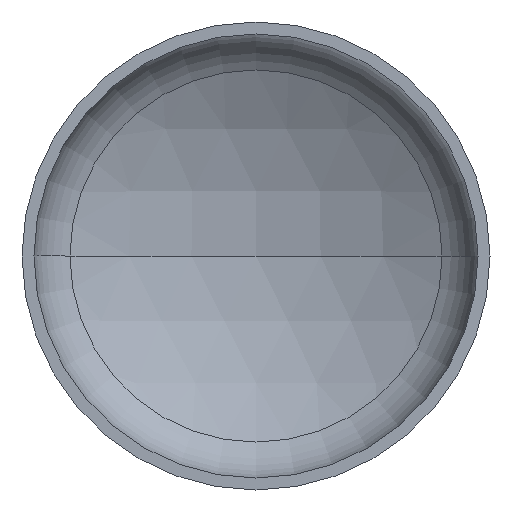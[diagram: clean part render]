
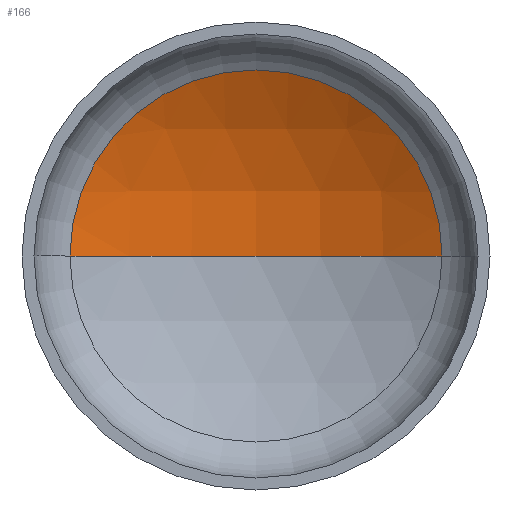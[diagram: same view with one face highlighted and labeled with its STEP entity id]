
A CAD part, front view. The second image highlights one B-rep face of the part: STEP entity #166.
In plain terms, the highlighted spherical face has radius 1440 mm.
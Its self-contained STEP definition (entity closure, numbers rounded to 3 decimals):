
#5 = AXIS2_PLACEMENT_3D ( 'NONE', #11, #287, #104 ) ;
#11 = CARTESIAN_POINT ( 'NONE',  ( 0., -870.932, 0. ) ) ;
#12 = EDGE_LOOP ( 'NONE', ( #144, #100, #28 ) ) ;
#28 = ORIENTED_EDGE ( 'NONE', *, *, #331, .T. ) ;
#29 = AXIS2_PLACEMENT_3D ( 'NONE', #351, #329, #188 ) ;
#30 = AXIS2_PLACEMENT_3D ( 'NONE', #159, #236, #400 ) ;
#31 = DIRECTION ( 'NONE',  ( -1., 0., 0. ) ) ;
#36 = CIRCLE ( 'NONE', #5, 1440. ) ;
#37 = VERTEX_POINT ( 'NONE', #369 ) ;
#57 = AXIS2_PLACEMENT_3D ( 'NONE', #183, #207, #31 ) ;
#100 = ORIENTED_EDGE ( 'NONE', *, *, #343, .T. ) ;
#104 = DIRECTION ( 'NONE',  ( 1., 0., 0. ) ) ;
#128 = VERTEX_POINT ( 'NONE', #229 ) ;
#144 = ORIENTED_EDGE ( 'NONE', *, *, #394, .F. ) ;
#145 = VERTEX_POINT ( 'NONE', #376 ) ;
#159 = CARTESIAN_POINT ( 'NONE',  ( 0., 378.632, 0. ) ) ;
#166 = ADVANCED_FACE ( 'NONE', ( #362 ), #170, .F. ) ;
#170 = SPHERICAL_SURFACE ( 'NONE', #57, 1440. ) ;
#183 = CARTESIAN_POINT ( 'NONE',  ( 0., -870.932, 0. ) ) ;
#188 = DIRECTION ( 'NONE',  ( -1., 0., 0. ) ) ;
#207 = DIRECTION ( 'NONE',  ( 0., 0., -1. ) ) ;
#229 = CARTESIAN_POINT ( 'NONE',  ( 0., 569.068, 0. ) ) ;
#236 = DIRECTION ( 'NONE',  ( 0., -1., 0. ) ) ;
#287 = DIRECTION ( 'NONE',  ( 0., 0., 1. ) ) ;
#329 = DIRECTION ( 'NONE',  ( 0., 0., -1. ) ) ;
#331 = EDGE_CURVE ( 'NONE', #145, #37, #391, .T. ) ;
#343 = EDGE_CURVE ( 'NONE', #128, #145, #387, .T. ) ;
#351 = CARTESIAN_POINT ( 'NONE',  ( 0., -870.932, 0. ) ) ;
#362 = FACE_OUTER_BOUND ( 'NONE', #12, .T. ) ;
#369 = CARTESIAN_POINT ( 'NONE',  ( -715.674, 378.632, 0. ) ) ;
#376 = CARTESIAN_POINT ( 'NONE',  ( 715.674, 378.632, 0. ) ) ;
#387 = CIRCLE ( 'NONE', #29, 1440. ) ;
#391 = CIRCLE ( 'NONE', #30, 715.674 ) ;
#394 = EDGE_CURVE ( 'NONE', #128, #37, #36, .T. ) ;
#400 = DIRECTION ( 'NONE',  ( 1., 0., 0. ) ) ;
